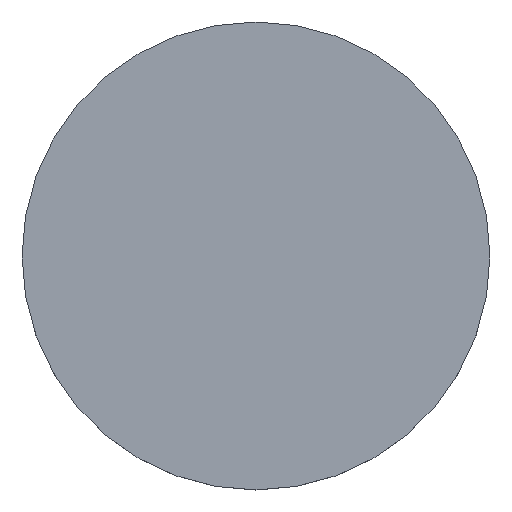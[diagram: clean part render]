
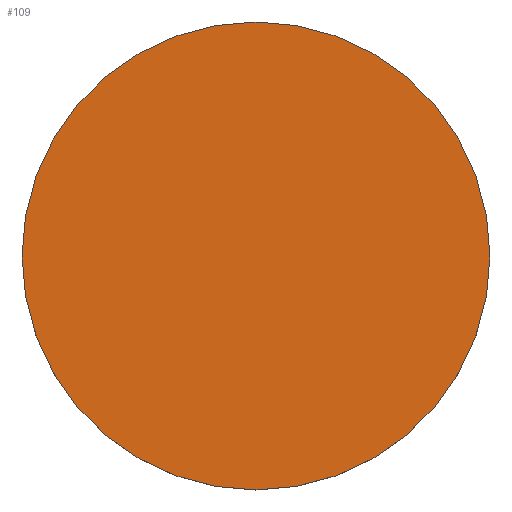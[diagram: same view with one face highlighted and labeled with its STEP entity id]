
A CAD part, top view. The second image highlights one B-rep face of the part: STEP entity #109.
In plain terms, the highlighted planar face has unit normal (0, 0, 1).
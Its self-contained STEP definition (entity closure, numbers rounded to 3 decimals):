
#24 = VERTEX_POINT('',#25);
#25 = CARTESIAN_POINT('',(74.5,0.,12.));
#32 = CYLINDRICAL_SURFACE('',#33,74.5);
#33 = AXIS2_PLACEMENT_3D('',#34,#35,#36);
#34 = CARTESIAN_POINT('',(0.,0.,0.));
#35 = DIRECTION('',(-0.,-0.,-1.));
#36 = DIRECTION('',(1.,0.,0.));
#51 = EDGE_CURVE('',#24,#24,#52,.T.);
#52 = SURFACE_CURVE('',#53,(#58,#65),.PCURVE_S1.);
#53 = CIRCLE('',#54,74.5);
#54 = AXIS2_PLACEMENT_3D('',#55,#56,#57);
#55 = CARTESIAN_POINT('',(0.,0.,12.));
#56 = DIRECTION('',(0.,0.,1.));
#57 = DIRECTION('',(1.,0.,0.));
#58 = PCURVE('',#32,#59);
#59 = DEFINITIONAL_REPRESENTATION('',(#60),#64);
#60 = LINE('',#61,#62);
#61 = CARTESIAN_POINT('',(-0.,-12.));
#62 = VECTOR('',#63,1.);
#63 = DIRECTION('',(-1.,0.));
#64 = ( GEOMETRIC_REPRESENTATION_CONTEXT(2) 
PARAMETRIC_REPRESENTATION_CONTEXT() REPRESENTATION_CONTEXT('2D SPACE',''
  ) );
#65 = PCURVE('',#66,#71);
#66 = PLANE('',#67);
#67 = AXIS2_PLACEMENT_3D('',#68,#69,#70);
#68 = CARTESIAN_POINT('',(0.,0.,12.));
#69 = DIRECTION('',(0.,0.,1.));
#70 = DIRECTION('',(1.,0.,-0.));
#71 = DEFINITIONAL_REPRESENTATION('',(#72),#76);
#72 = CIRCLE('',#73,74.5);
#73 = AXIS2_PLACEMENT_2D('',#74,#75);
#74 = CARTESIAN_POINT('',(0.,0.));
#75 = DIRECTION('',(1.,0.));
#76 = ( GEOMETRIC_REPRESENTATION_CONTEXT(2) 
PARAMETRIC_REPRESENTATION_CONTEXT() REPRESENTATION_CONTEXT('2D SPACE',''
  ) );
#109 = ADVANCED_FACE('',(#110),#66,.T.);
#110 = FACE_BOUND('',#111,.T.);
#111 = EDGE_LOOP('',(#112));
#112 = ORIENTED_EDGE('',*,*,#51,.T.);
